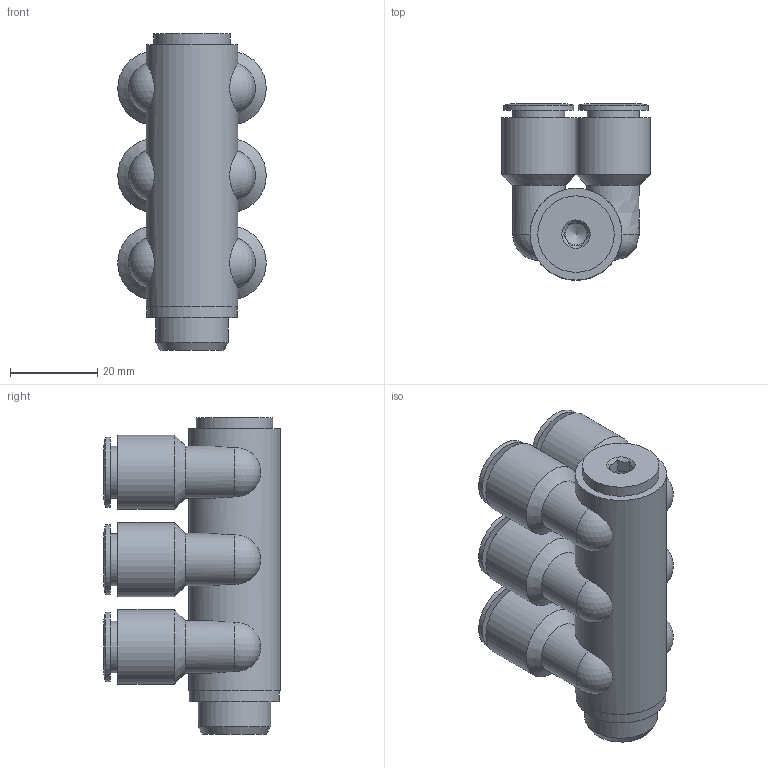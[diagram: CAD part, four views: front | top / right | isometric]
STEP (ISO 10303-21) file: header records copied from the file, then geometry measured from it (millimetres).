
FILE_DESCRIPTION((''),'2;1');
FILE_NAME('C:\Documents and Settings\rivolro1\Documenti\copia di Raccordi\PLASTICA\T34BXXXX\T34B1038.stp','2007-11-03T09:08:45',('Rivolro1'),(''),'Autodesk Inventor 2008','Autodesk Inventor 2008','');
FILE_SCHEMA(('AUTOMOTIVE_DESIGN { 1 0 10303 214 1 1 1 1 }'));
Length unit declared in the file: millimetre
Products named in the file (1): T34B1038
Bounding box: 34 x 40.4 x 72.5 mm (x, y, z)
Volume: 38412.9 mm3; surface area: 20077.7 mm2
Topology: 1 solids, 1 shells, 121 faces, 232 edges, 140 vertices
Faces by surface type: bspline 60, plane 26, cylinder 25, cone 7, sphere 3
Full cylindrical faces by diameter (mm): 8.3 x3, 11.9 x3, 12 x3, 16 x3, 16.6 x1, 17 x3, 17.5 x1, 20.6 x1, 21 x1
Entity records: 4247 total; most frequent: CARTESIAN_POINT 2193, DIRECTION 356, ORIENTED_EDGE 322, EDGE_LOOP 204, AXIS2_PLACEMENT_3D 163, EDGE_CURVE 161, FACE_OUTER_BOUND 121, ADVANCED_FACE 121
